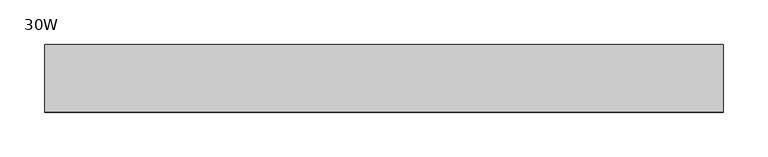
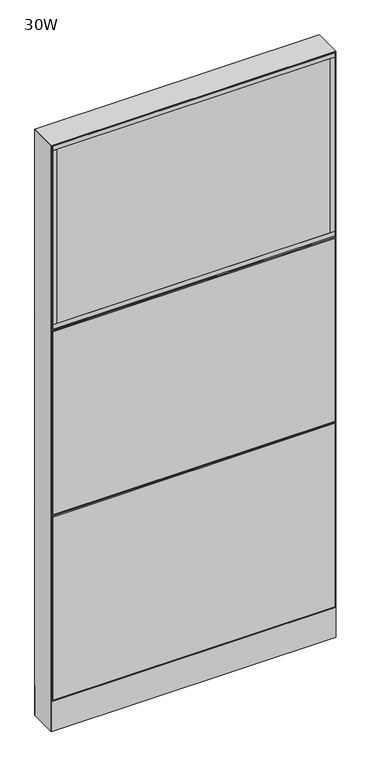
"""IFC4 building model written with IfcOpenShell, lengths in millimetres: furniture geometry, Steelcase - Montage - Frame - 65H - Enhanced Monolithic - Base Cavity : 30W."""

from ifc_helpers import new_model, si_unit, point, frame, frame_2d, origin, origin_with_axes, place, context, project, spatial, polyline, circle_curve, trimmed, segment, composite_curve, outline, extrude, faceted_brep, source, transform, mapped, element, save


def furniture_30w_f457f4cf(model_context):
    return source(origin(), model_context, "Body", "SolidModel", [
        faceted_brep([(762.0, 38.1026253, 1136.6499956), (755.6500047, 31.7526299, 1130.3000003), (6.3499917, 31.7526299, 1130.3000003), (-5.4e-06, 38.102627, 1136.6499973), (6.3499917, 31.7526299, 1142.9999997), (755.6500047, 31.7526299, 1142.9999997)], [[[0, 1, 2, 3]], [[4, 2, 1, 5]], [[3, 2, 4]], [[5, 1, 0]], [[3, 4, 5, 0]]]),
        extrude(outline(polyline([(746.125, 38.1000015), (746.125, 31.7500017), (15.875, 31.7500017), (15.875, 38.1000015), (746.125, 38.1000015)])), frame((0.0, 0.0, 1152.525), z_axis=(0.0, 0.0, 1.0), x_axis=(1.0, 0.0, 0.0)), (0.0, 0.0, 1.0), 492.125),
        extrude(outline(polyline([(746.125, -31.7499985), (746.125, -38.1000015), (15.875, -38.1000015), (15.875, -31.7499985), (746.125, -31.7499985)])), frame((0.0, 0.0, 1152.525), z_axis=(0.0, 0.0, 1.0), x_axis=(1.0, 0.0, 0.0)), (0.0, 0.0, 1.0), 492.125),
        extrude(outline(polyline([(758.825, -38.1000015), (746.125, -38.1000015), (746.125, 38.1000015), (758.825, 38.1000015), (758.825, -38.1000015)])), frame((0.0, 0.0, 1152.525), z_axis=(0.0, 0.0, 1.0), x_axis=(1.0, 0.0, 0.0)), (0.0, 0.0, 1.0), 492.125),
        extrude(outline(polyline([(15.875, -38.1000015), (3.175, -38.1000015), (3.175, 38.1000015), (15.875, 38.1000015), (15.875, -38.1000015)])), frame((0.0, 0.0, 1152.525), z_axis=(0.0, 0.0, 1.0), x_axis=(1.0, 0.0, 0.0)), (0.0, 0.0, 1.0), 492.125),
        extrude(outline(polyline([(758.825, -38.1000015), (3.175, -38.1000015), (3.175, 38.1000015), (758.825, 38.1000015), (758.825, -38.1000015)])), frame((0.0, 0.0, 1139.825), z_axis=(0.0, 0.0, 1.0), x_axis=(1.0, 0.0, 0.0)), (0.0, 0.0, 1.0), 12.7),
        extrude(outline(polyline([(758.825, -38.1000015), (3.175, -38.1000015), (3.175, 38.1000015), (758.825, 38.1000015), (758.825, -38.1000015)])), frame((0.0, 0.0, 1644.65), z_axis=(0.0, 0.0, 1.0), x_axis=(1.0, 0.0, 0.0)), (0.0, 0.0, 1.0), 12.7),
        extrude(outline(polyline([(3.175, 31.7500194), (3.175, 38.1000194), (758.825, 38.1000194), (758.825, 31.7500194), (3.175, 31.7500194)])), frame((0.0, 0.0, 92.075), z_axis=(0.0, 0.0, 1.0), x_axis=(1.0, 0.0, 0.0)), (0.0, 0.0, 1.0), 517.525),
        faceted_brep([(-5.4e-06, 38.102627, 612.7750027), (6.3499917, 31.7526299, 619.1249997), (755.6500047, 31.7526299, 619.1249997), (762.0, 38.1026253, 612.7750044), (755.6500047, 31.7526299, 606.4250003), (6.3499917, 31.7526299, 606.4250003)], [[[0, 1, 2, 3]], [[2, 4, 3]], [[3, 4, 5, 0]], [[1, 5, 4, 2]], [[0, 5, 1]]]),
        extrude(outline(polyline([(3.175, 31.7500194), (3.175, 38.1000194), (758.825, 38.1000194), (758.825, 31.7500194), (3.175, 31.7500194)])), frame((0.0, 0.0, 615.95), z_axis=(0.0, 0.0, 1.0), x_axis=(1.0, 0.0, 0.0)), (0.0, 0.0, 1.0), 517.525),
        faceted_brep([(762.0, -38.1026297, 1136.65), (0.0, -38.1026297, 1136.65), (6.3499917, -31.7526299, 1130.3000003), (755.6500047, -31.7526299, 1130.3000003), (6.3499917, -31.7526299, 1142.9999997), (755.6500047, -31.7526299, 1142.9999997)], [[[0, 1, 2, 3]], [[4, 5, 3, 2]], [[1, 4, 2]], [[5, 0, 3]], [[1, 0, 5, 4]]]),
        extrude(outline(polyline([(746.125, 31.7499985), (15.875, 31.7499985), (15.875, 38.1000015), (746.125, 38.1000015), (746.125, 31.7499985)])), frame((0.0, 0.0, 1152.525), z_axis=(0.0, 0.0, 1.0), x_axis=(1.0, 0.0, 0.0)), (0.0, 0.0, 1.0), 492.125),
        extrude(outline(polyline([(746.125, -38.1000015), (15.875, -38.1000015), (15.875, -31.7500017), (746.125, -31.7500017), (746.125, -38.1000015)])), frame((0.0, 0.0, 1152.525), z_axis=(0.0, 0.0, 1.0), x_axis=(1.0, 0.0, 0.0)), (0.0, 0.0, 1.0), 492.125),
        extrude(outline(polyline([(758.825, 38.1000015), (758.825, -38.1000015), (746.125, -38.1000015), (746.125, 38.1000015), (758.825, 38.1000015)])), frame((0.0, 0.0, 1152.525), z_axis=(0.0, 0.0, 1.0), x_axis=(1.0, 0.0, 0.0)), (0.0, 0.0, 1.0), 492.125),
        extrude(outline(polyline([(15.875, 38.1000015), (15.875, -38.1000015), (3.175, -38.1000015), (3.175, 38.1000015), (15.875, 38.1000015)])), frame((0.0, 0.0, 1152.525), z_axis=(0.0, 0.0, 1.0), x_axis=(1.0, 0.0, 0.0)), (0.0, 0.0, 1.0), 492.125),
        extrude(outline(polyline([(758.825, 38.1000015), (758.825, -38.1000015), (3.175, -38.1000015), (3.175, 38.1000015), (758.825, 38.1000015)])), frame((0.0, 0.0, 1139.825), z_axis=(0.0, 0.0, 1.0), x_axis=(1.0, 0.0, 0.0)), (0.0, 0.0, 1.0), 12.7),
        extrude(outline(polyline([(758.825, 38.1000015), (758.825, -38.1000015), (3.175, -38.1000015), (3.175, 38.1000015), (758.825, 38.1000015)])), frame((0.0, 0.0, 1644.65), z_axis=(0.0, 0.0, 1.0), x_axis=(1.0, 0.0, 0.0)), (0.0, 0.0, 1.0), 12.7),
        extrude(outline(polyline([(3.175, -31.7500194), (758.825, -31.7500194), (758.825, -38.1000194), (3.175, -38.1000194), (3.175, -31.7500194)])), frame((0.0, 0.0, 92.075), z_axis=(0.0, 0.0, 1.0), x_axis=(1.0, 0.0, 0.0)), (0.0, 0.0, 1.0), 517.525),
        faceted_brep([(0.0, -38.1026297, 612.775), (762.0, -38.1026297, 612.775), (755.6500047, -31.7526299, 619.1249997), (6.3499917, -31.7526299, 619.1249997), (755.6500047, -31.7526299, 606.4250003), (6.3499917, -31.7526299, 606.4250003)], [[[0, 1, 2, 3]], [[2, 1, 4]], [[1, 0, 5, 4]], [[3, 2, 4, 5]], [[0, 3, 5]]]),
        extrude(outline(polyline([(3.175, -31.7500194), (758.825, -31.7500194), (758.825, -38.1000194), (3.175, -38.1000194), (3.175, -31.7500194)])), frame((0.0, 0.0, 615.95), z_axis=(0.0, 0.0, 1.0), x_axis=(1.0, 0.0, 0.0)), (0.0, 0.0, 1.0), 517.525),
        extrude(outline(polyline([(6.350003, -31.7499985), (755.649997, -31.7499985), (762.0, -38.1000015), (0.0, -38.1000015), (6.350003, -31.7499985)])), frame((0.0, 0.0, 4.064), z_axis=(0.0, 0.0, 1.0), x_axis=(1.0, 0.0, 0.0)), (0.0, 0.0, 1.0), 84.835997),
        extrude(outline(polyline([(6.3500002, 31.7500017), (0.0, 38.1000015), (762.0, 38.1000015), (755.6500002, 31.7500017), (6.3500002, 31.7500017)])), frame((0.0, 0.0, 4.064), z_axis=(0.0, 0.0, 1.0), x_axis=(1.0, 0.0, 0.0)), (0.0, 0.0, 1.0), 84.835997),
        faceted_brep([(762.0, -38.1000015, 1660.525), (0.0, -38.1000015, 1660.525), (6.3500484, -31.749953, 1654.1749516), (755.6499516, -31.749953, 1654.1749516), (6.3500484, 31.749953, 1654.1749516), (755.6499516, 31.749953, 1654.1749516), (0.0, 38.1000015, 1660.525), (762.0, 38.1000015, 1660.525)], [[[0, 1, 2, 3]], [[3, 2, 4, 5]], [[6, 7, 5, 4]], [[1, 0, 7, 6]], [[2, 1, 6, 4]], [[0, 3, 5, 7]]]),
        extrude(outline(composite_curve([segment(trimmed(circle_curve(frame_2d((44.45, 0.0)), 15.24), [point((29.21, 0.0))], [point((59.69, 0.0))], False, "CARTESIAN"), True, "CONTINUOUS"), segment(trimmed(circle_curve(frame_2d((44.45, 0.0)), 15.24), [point((59.69, 0.0))], [point((29.21, 0.0))], False, "CARTESIAN"), True, "CONTINUOUS")], self_intersect=False)), origin_with_axes(), (0.0, 0.0, 1.0), 4.064),
        extrude(outline(composite_curve([segment(trimmed(circle_curve(frame_2d((717.55, 0.0)), 15.24), [point((702.31, 0.0))], [point((732.79, 0.0))], False, "CARTESIAN"), True, "CONTINUOUS"), segment(trimmed(circle_curve(frame_2d((717.55, 0.0)), 15.24), [point((732.79, 0.0))], [point((702.31, 0.0))], False, "CARTESIAN"), True, "CONTINUOUS")], self_intersect=False)), origin_with_axes(), (0.0, 0.0, 1.0), 4.064),
        faceted_brep([(762.0, -38.1000106, 4.064), (762.0, 38.1000015, 4.064), (762.0, 38.1000015, 1660.525), (762.0, -38.1000106, 1660.5249637), (0.0, 38.1000015, 4.064), (0.0, -38.1000015, 4.064), (0.0, -38.1000015, 1660.525), (0.0, 38.1000015, 1660.525), (755.6499879, 31.7500017, 606.425), (6.35, 31.7500017, 606.425), (6.3499998, 31.7500017, 619.125), (755.6499879, 31.7500017, 619.125), (6.35, -31.7499985, 619.125), (755.6499879, -31.7499985, 619.125), (6.350003, -31.7499985, 606.425), (755.6499879, -31.7499985, 606.425), (755.6499879, 31.7500017, 1130.3), (6.35, 31.7500017, 1130.3), (6.3499998, 31.7500017, 1143.0), (755.6499879, 31.7500017, 1143.0), (6.35, -31.7499985, 1143.0), (755.6499879, -31.7499985, 1143.0), (6.350003, -31.7499985, 1130.3), (755.6499879, -31.7499985, 1130.3), (6.35, 31.7500015, 4.064), (6.35, -31.7500015, 4.064), (755.6499879, 31.7499894, 4.064), (755.6499879, -31.7499985, 4.064), (6.35, 31.7500015, 1654.175), (6.35, -31.7500015, 1654.175), (755.6499879, -31.7499985, 1654.1749516), (755.6499879, 31.7499895, 1654.1749516)], [[[0, 1, 2, 3]], [[4, 5, 6, 7]], [[8, 9, 10, 11]], [[11, 10, 12, 13]], [[13, 12, 14, 15]], [[9, 8, 15, 14]], [[16, 17, 18, 19]], [[19, 18, 20, 21]], [[21, 20, 22, 23]], [[17, 16, 23, 22]], [[24, 25, 5, 4]], [[26, 1, 0, 27]], [[24, 4, 7, 28, 18, 17, 10, 9]], [[5, 25, 14, 12, 22, 20, 29, 6]], [[20, 18, 28, 29]], [[25, 24, 9, 14]], [[10, 17, 22, 12]], [[19, 21, 30, 31]], [[26, 27, 15, 8]], [[16, 11, 13, 23]], [[27, 0, 3, 30, 21, 23, 13, 15]], [[1, 26, 8, 11, 16, 19, 31, 2]], [[7, 6, 29, 28]], [[3, 2, 31, 30]]]),
    ])


if __name__ == "__main__":
    model = new_model("IFC4")
    model_context = context("Model", 3, world=origin())
    ifc_project = project(units=[si_unit("LENGTHUNIT", "METRE", prefix="MILLI")], contexts=[model_context])
    site = spatial("IfcSite", under=ifc_project)
    building = spatial("IfcBuilding", under=site)
    placement = place(None, origin())
    furniture_30w_shape = furniture_30w_f457f4cf(model_context)
    element("IfcFurniture", 1, ObjectType="Steelcase - Montage - Frame - 65H - Enhanced Monolithic - Base Cavity : 30W", at=placement, inside=building, context=model_context, shape_type="MappedRepresentation", body=[
        mapped(furniture_30w_shape, transform((0.0, 0.0, 0.0), x_axis=(1.0, 0.0, 0.0), y_axis=(0.0, 1.0, 0.0), z_axis=(0.0, 0.0, 1.0))),
    ])
    save(model, "model.ifc")
